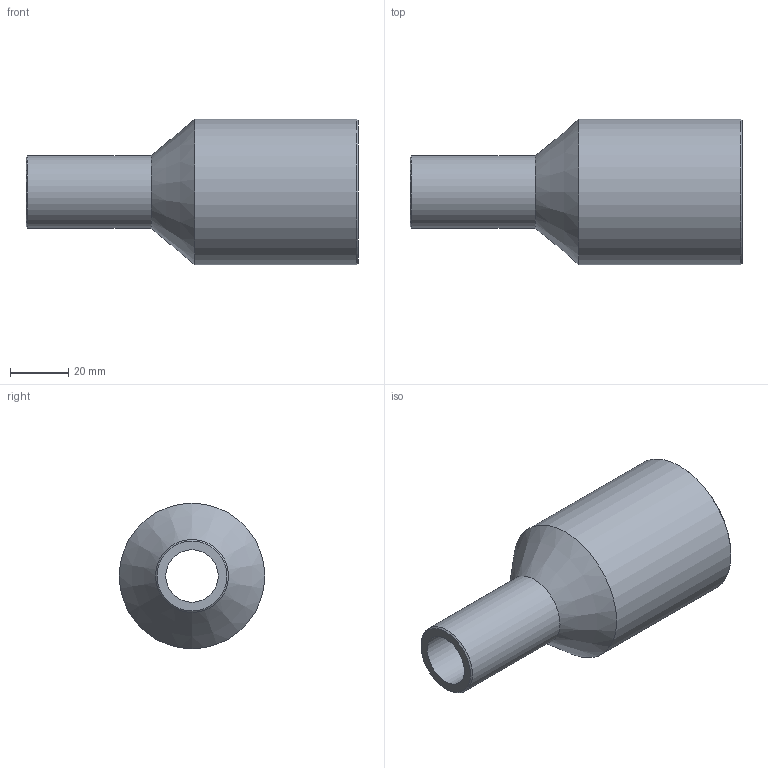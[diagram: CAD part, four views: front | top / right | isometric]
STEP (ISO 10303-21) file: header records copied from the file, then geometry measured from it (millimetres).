
FILE_DESCRIPTION(/* description */ ('Unknown'),/* implementation_level */ '2;1');
FILE_NAME(/* name */ 'RP050025H',/* time_stamp */ '2021-09-16T11:14:43+02:00',/* author */ ('Unknown'),/* organization */ ('Unknown'),/* preprocessor_version */ 'ST-DEVELOPER v16.7',/* originating_system */ 'Solid Edge',/* authorisation */ 'Unknown');
FILE_SCHEMA (('AUTOMOTIVE_DESIGN {1 0 10303 214 3 1 1}'));
Length unit declared in the file: millimetre
Products named in the file (1): RP050025H
Bounding box: 114 x 50 x 50 mm (x, y, z)
Volume: 73758.1 mm3; surface area: 25640.2 mm2
Topology: 1 solids, 1 shells, 10 faces, 19 edges, 11 vertices
Faces by surface type: cylinder 4, cone 4, plane 2
Full cylindrical faces by diameter (mm): 18 x1, 25 x1, 36.2 x1, 50 x1
Entity records: 238 total; most frequent: DIRECTION 42, CARTESIAN_POINT 31, AXIS2_PLACEMENT_3D 21, ORIENTED_EDGE 20, EDGE_LOOP 20, FACE_BOUND 20, EDGE_CURVE 10, VERTEX_POINT 10
